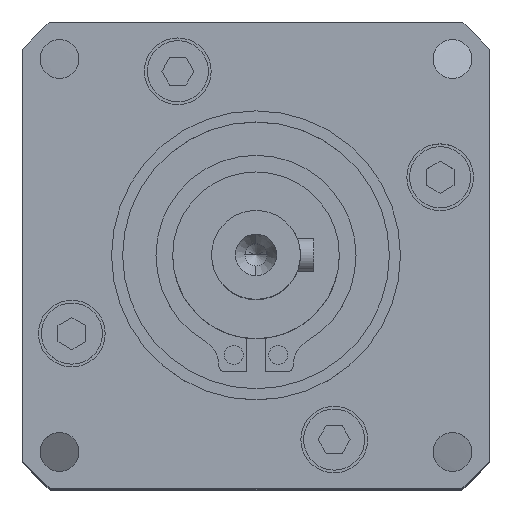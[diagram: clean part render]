
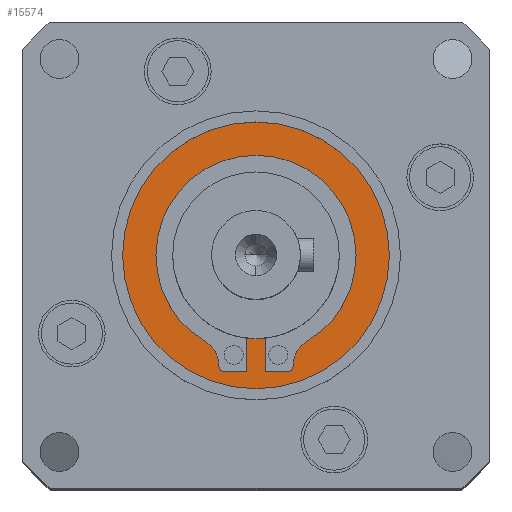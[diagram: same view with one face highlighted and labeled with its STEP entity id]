
A CAD part, top view. The second image highlights one B-rep face of the part: STEP entity #15574.
In plain terms, the highlighted planar face has unit normal (0, 0, 1).
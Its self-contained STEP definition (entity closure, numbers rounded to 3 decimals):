
#311 = DIRECTION ( 'NONE',  ( -1., 0., 0. ) ) ;
#352 = VECTOR ( 'NONE', #8660, 1000. ) ;
#373 = EDGE_CURVE ( 'NONE', #40690, #34295, #4747, .T. ) ;
#580 = DIRECTION ( 'NONE',  ( -1., 0., 0. ) ) ;
#787 = DIRECTION ( 'NONE',  ( 0., 0., -1. ) ) ;
#884 = CARTESIAN_POINT ( 'NONE',  ( 0., 0., -2.5 ) ) ;
#1250 = ORIENTED_EDGE ( 'NONE', *, *, #27369, .F. ) ;
#1424 = VERTEX_POINT ( 'NONE', #28123 ) ;
#1431 = VECTOR ( 'NONE', #20043, 1000. ) ;
#1496 = CARTESIAN_POINT ( 'NONE',  ( 0., 0., -2.5 ) ) ;
#1564 = FACE_BOUND ( 'NONE', #24071, .T. ) ;
#1795 = CIRCLE ( 'NONE', #27725, 2.5 ) ;
#1931 = ORIENTED_EDGE ( 'NONE', *, *, #41391, .F. ) ;
#2879 = EDGE_CURVE ( 'NONE', #20585, #23317, #21899, .T. ) ;
#2961 = CIRCLE ( 'NONE', #15199, 12. ) ;
#3422 = LINE ( 'NONE', #32758, #1431 ) ;
#3797 = DIRECTION ( 'NONE',  ( 0., 0., 1. ) ) ;
#3812 = CARTESIAN_POINT ( 'NONE',  ( 0., -10.452, -2.5 ) ) ;
#4039 = VERTEX_POINT ( 'NONE', #39178 ) ;
#4077 = DIRECTION ( 'NONE',  ( -1., 0., 0. ) ) ;
#4185 = CARTESIAN_POINT ( 'NONE',  ( 3.35, -9.952, -2.5 ) ) ;
#4538 = ORIENTED_EDGE ( 'NONE', *, *, #17646, .F. ) ;
#4713 = DIRECTION ( 'NONE',  ( 0., 0., -1. ) ) ;
#4717 = AXIS2_PLACEMENT_3D ( 'NONE', #38603, #19457, #311 ) ;
#4747 = CIRCLE ( 'NONE', #28290, 7.5 ) ;
#5548 = CARTESIAN_POINT ( 'NONE',  ( -0.85, 0., -2.5 ) ) ;
#5997 = ORIENTED_EDGE ( 'NONE', *, *, #40968, .F. ) ;
#6260 = ORIENTED_EDGE ( 'NONE', *, *, #21070, .F. ) ;
#6400 = AXIS2_PLACEMENT_3D ( 'NONE', #35455, #16333, #38696 ) ;
#6418 = ORIENTED_EDGE ( 'NONE', *, *, #7777, .F. ) ;
#6909 = CARTESIAN_POINT ( 'NONE',  ( 0., 0., -2.5 ) ) ;
#7777 = EDGE_CURVE ( 'NONE', #23912, #26734, #40621, .T. ) ;
#8171 = LINE ( 'NONE', #12282, #40195 ) ;
#8328 = LINE ( 'NONE', #3812, #25327 ) ;
#8660 = DIRECTION ( 'NONE',  ( 0., 1., 0. ) ) ;
#8820 = LINE ( 'NONE', #31047, #352 ) ;
#9011 = FACE_OUTER_BOUND ( 'NONE', #30089, .T. ) ;
#9172 = AXIS2_PLACEMENT_3D ( 'NONE', #33984, #14861, #37243 ) ;
#9215 = CIRCLE ( 'NONE', #4717, 0.5 ) ;
#9360 = CIRCLE ( 'NONE', #37732, 0.5 ) ;
#9460 = DIRECTION ( 'NONE',  ( 0., 0., 1. ) ) ;
#9974 = CIRCLE ( 'NONE', #32397, 9. ) ;
#10115 = DIRECTION ( 'NONE',  ( -1., 0., 0. ) ) ;
#10306 = CARTESIAN_POINT ( 'NONE',  ( -0.85, -10.452, -2.5 ) ) ;
#10839 = EDGE_CURVE ( 'NONE', #23317, #20585, #2961, .T. ) ;
#12047 = VECTOR ( 'NONE', #29887, 1000. ) ;
#12282 = CARTESIAN_POINT ( 'NONE',  ( 0., -10.452, -2.5 ) ) ;
#12663 = EDGE_CURVE ( 'NONE', #17251, #33139, #9360, .T. ) ;
#13037 = LINE ( 'NONE', #20277, #12047 ) ;
#14309 = VERTEX_POINT ( 'NONE', #10306 ) ;
#14658 = ORIENTED_EDGE ( 'NONE', *, *, #18473, .F. ) ;
#14716 = DIRECTION ( 'NONE',  ( 0., 0., 1. ) ) ;
#14861 = DIRECTION ( 'NONE',  ( 0., 0., -1. ) ) ;
#15199 = AXIS2_PLACEMENT_3D ( 'NONE', #22948, #3797, #26149 ) ;
#15574 = ADVANCED_FACE ( 'NONE', ( #1564, #9011 ), #39776, .F. ) ;
#15730 = AXIS2_PLACEMENT_3D ( 'NONE', #6909, #29251, #10115 ) ;
#16333 = DIRECTION ( 'NONE',  ( 0., 0., 1. ) ) ;
#17117 = CARTESIAN_POINT ( 'NONE',  ( 0.85, -7.452, -2.5 ) ) ;
#17251 = VERTEX_POINT ( 'NONE', #20931 ) ;
#17646 = EDGE_CURVE ( 'NONE', #31748, #23912, #29934, .T. ) ;
#18473 = EDGE_CURVE ( 'NONE', #14309, #40690, #30918, .T. ) ;
#18815 = ORIENTED_EDGE ( 'NONE', *, *, #36265, .F. ) ;
#19457 = DIRECTION ( 'NONE',  ( 0., 0., 1. ) ) ;
#19471 = EDGE_CURVE ( 'NONE', #33139, #31748, #8820, .T. ) ;
#19731 = DIRECTION ( 'NONE',  ( 0., 0., 1. ) ) ;
#19803 = CARTESIAN_POINT ( 'NONE',  ( -4.578, -7.749, -2.5 ) ) ;
#19830 = AXIS2_PLACEMENT_3D ( 'NONE', #1496, #4713, #27050 ) ;
#19931 = CARTESIAN_POINT ( 'NONE',  ( -5.85, -9.901, -2.5 ) ) ;
#20043 = DIRECTION ( 'NONE',  ( 0., -1., 0. ) ) ;
#20277 = CARTESIAN_POINT ( 'NONE',  ( -3.35, 0., -2.5 ) ) ;
#20585 = VERTEX_POINT ( 'NONE', #35811 ) ;
#20931 = CARTESIAN_POINT ( 'NONE',  ( 2.85, -10.452, -2.5 ) ) ;
#21070 = EDGE_CURVE ( 'NONE', #30729, #25944, #35276, .T. ) ;
#21724 = ORIENTED_EDGE ( 'NONE', *, *, #373, .F. ) ;
#21899 = CIRCLE ( 'NONE', #22652, 12. ) ;
#22345 = VERTEX_POINT ( 'NONE', #30842 ) ;
#22417 = VECTOR ( 'NONE', #31125, 1000. ) ;
#22652 = AXIS2_PLACEMENT_3D ( 'NONE', #33846, #14716, #37089 ) ;
#22948 = CARTESIAN_POINT ( 'NONE',  ( 0., 0., -2.5 ) ) ;
#23138 = DIRECTION ( 'NONE',  ( -1., 0., 0. ) ) ;
#23145 = ORIENTED_EDGE ( 'NONE', *, *, #12663, .F. ) ;
#23237 = DIRECTION ( 'NONE',  ( 0., 0., 1. ) ) ;
#23317 = VERTEX_POINT ( 'NONE', #28456 ) ;
#23912 = VERTEX_POINT ( 'NONE', #36649 ) ;
#24071 = EDGE_LOOP ( 'NONE', ( #39337, #1931, #18815, #5997, #6260, #33499, #6418, #4538, #24154, #23145, #1250, #26607, #21724, #14658 ) ) ;
#24154 = ORIENTED_EDGE ( 'NONE', *, *, #19471, .F. ) ;
#24563 = CARTESIAN_POINT ( 'NONE',  ( -0.85, -7.452, -2.5 ) ) ;
#25327 = VECTOR ( 'NONE', #26160, 1000. ) ;
#25944 = VERTEX_POINT ( 'NONE', #19803 ) ;
#26149 = DIRECTION ( 'NONE',  ( 1., 0., 0. ) ) ;
#26160 = DIRECTION ( 'NONE',  ( 1., 0., 0. ) ) ;
#26607 = ORIENTED_EDGE ( 'NONE', *, *, #38699, .F. ) ;
#26734 = VERTEX_POINT ( 'NONE', #37911 ) ;
#26778 = ORIENTED_EDGE ( 'NONE', *, *, #10839, .T. ) ;
#27050 = DIRECTION ( 'NONE',  ( -1., 0., 0. ) ) ;
#27369 = EDGE_CURVE ( 'NONE', #33865, #17251, #8328, .T. ) ;
#27725 = AXIS2_PLACEMENT_3D ( 'NONE', #19931, #787, #23138 ) ;
#28123 = CARTESIAN_POINT ( 'NONE',  ( -3.35, -9.901, -2.5 ) ) ;
#28290 = AXIS2_PLACEMENT_3D ( 'NONE', #884, #23237, #4077 ) ;
#28456 = CARTESIAN_POINT ( 'NONE',  ( -12., 0., -2.5 ) ) ;
#28620 = CARTESIAN_POINT ( 'NONE',  ( 2.85, -9.952, -2.5 ) ) ;
#29251 = DIRECTION ( 'NONE',  ( 0., 0., 1. ) ) ;
#29422 = CARTESIAN_POINT ( 'NONE',  ( -9., 0., -2.5 ) ) ;
#29887 = DIRECTION ( 'NONE',  ( 0., -1., 0. ) ) ;
#29934 = CIRCLE ( 'NONE', #9172, 2.5 ) ;
#30089 = EDGE_LOOP ( 'NONE', ( #35384, #26778 ) ) ;
#30473 = EDGE_CURVE ( 'NONE', #4039, #14309, #8171, .T. ) ;
#30729 = VERTEX_POINT ( 'NONE', #29422 ) ;
#30842 = CARTESIAN_POINT ( 'NONE',  ( -3.35, -9.952, -2.5 ) ) ;
#30918 = LINE ( 'NONE', #5548, #22417 ) ;
#31047 = CARTESIAN_POINT ( 'NONE',  ( 3.35, 0., -2.5 ) ) ;
#31125 = DIRECTION ( 'NONE',  ( 0., 1., 0. ) ) ;
#31748 = VERTEX_POINT ( 'NONE', #38295 ) ;
#31838 = DIRECTION ( 'NONE',  ( -1., 0., 0. ) ) ;
#32397 = AXIS2_PLACEMENT_3D ( 'NONE', #38862, #19731, #580 ) ;
#32758 = CARTESIAN_POINT ( 'NONE',  ( 0.85, 0., -2.5 ) ) ;
#33139 = VERTEX_POINT ( 'NONE', #4185 ) ;
#33499 = ORIENTED_EDGE ( 'NONE', *, *, #37260, .F. ) ;
#33846 = CARTESIAN_POINT ( 'NONE',  ( 0., 0., -2.5 ) ) ;
#33865 = VERTEX_POINT ( 'NONE', #36439 ) ;
#33984 = CARTESIAN_POINT ( 'NONE',  ( 5.85, -9.901, -2.5 ) ) ;
#34295 = VERTEX_POINT ( 'NONE', #17117 ) ;
#34629 = DIRECTION ( 'NONE',  ( 1., 0., 0. ) ) ;
#35276 = CIRCLE ( 'NONE', #15730, 9. ) ;
#35384 = ORIENTED_EDGE ( 'NONE', *, *, #2879, .T. ) ;
#35455 = CARTESIAN_POINT ( 'NONE',  ( 0., 0., -2.5 ) ) ;
#35811 = CARTESIAN_POINT ( 'NONE',  ( 12., 0., -2.5 ) ) ;
#36265 = EDGE_CURVE ( 'NONE', #1424, #22345, #13037, .T. ) ;
#36439 = CARTESIAN_POINT ( 'NONE',  ( 0.85, -10.452, -2.5 ) ) ;
#36649 = CARTESIAN_POINT ( 'NONE',  ( 4.578, -7.749, -2.5 ) ) ;
#37089 = DIRECTION ( 'NONE',  ( 1., 0., 0. ) ) ;
#37243 = DIRECTION ( 'NONE',  ( -1., 0., 0. ) ) ;
#37260 = EDGE_CURVE ( 'NONE', #26734, #30729, #9974, .T. ) ;
#37732 = AXIS2_PLACEMENT_3D ( 'NONE', #28620, #9460, #31838 ) ;
#37911 = CARTESIAN_POINT ( 'NONE',  ( 9., 0., -2.5 ) ) ;
#38295 = CARTESIAN_POINT ( 'NONE',  ( 3.35, -9.901, -2.5 ) ) ;
#38603 = CARTESIAN_POINT ( 'NONE',  ( -2.85, -9.952, -2.5 ) ) ;
#38696 = DIRECTION ( 'NONE',  ( -1., 0., 0. ) ) ;
#38699 = EDGE_CURVE ( 'NONE', #34295, #33865, #3422, .T. ) ;
#38862 = CARTESIAN_POINT ( 'NONE',  ( 0., 0., -2.5 ) ) ;
#39178 = CARTESIAN_POINT ( 'NONE',  ( -2.85, -10.452, -2.5 ) ) ;
#39337 = ORIENTED_EDGE ( 'NONE', *, *, #30473, .F. ) ;
#39776 = PLANE ( 'NONE',  #19830 ) ;
#40195 = VECTOR ( 'NONE', #34629, 1000. ) ;
#40621 = CIRCLE ( 'NONE', #6400, 9. ) ;
#40690 = VERTEX_POINT ( 'NONE', #24563 ) ;
#40968 = EDGE_CURVE ( 'NONE', #25944, #1424, #1795, .T. ) ;
#41391 = EDGE_CURVE ( 'NONE', #22345, #4039, #9215, .T. ) ;
